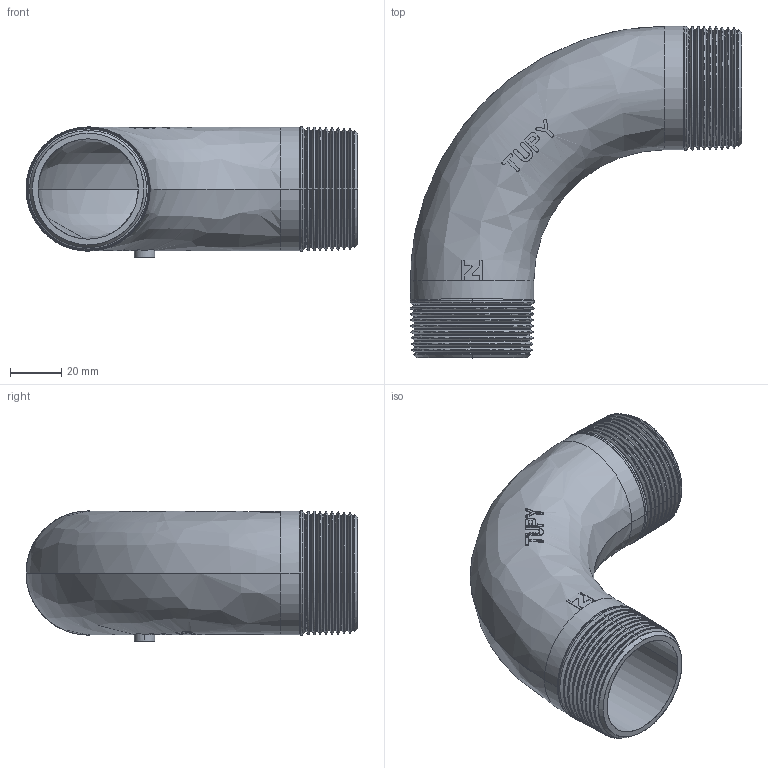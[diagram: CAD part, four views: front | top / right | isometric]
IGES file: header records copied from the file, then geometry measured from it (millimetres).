
Start section: SolidWorks IGES file using analytic representation for surfaces
Global section: file name: C:\Users\Joel Rosa\Desktop\Tubulação\12-25-OK\12-25-009.IGS; native system: SolidWorks 2011; preprocessor: SolidWorks 2011; author: Joel Rosa; date: 121207.021520; units: millimetre
Bounding box: 129.17 x 129.17 x 50.67 mm (x, y, z)
Surface area: 53348 mm2 (no closed solid volume)
Topology: 0 solids, 0 shells, 325 faces, 2807 edges, 2807 vertices
Faces by surface type: bspline 232, revolution 93
